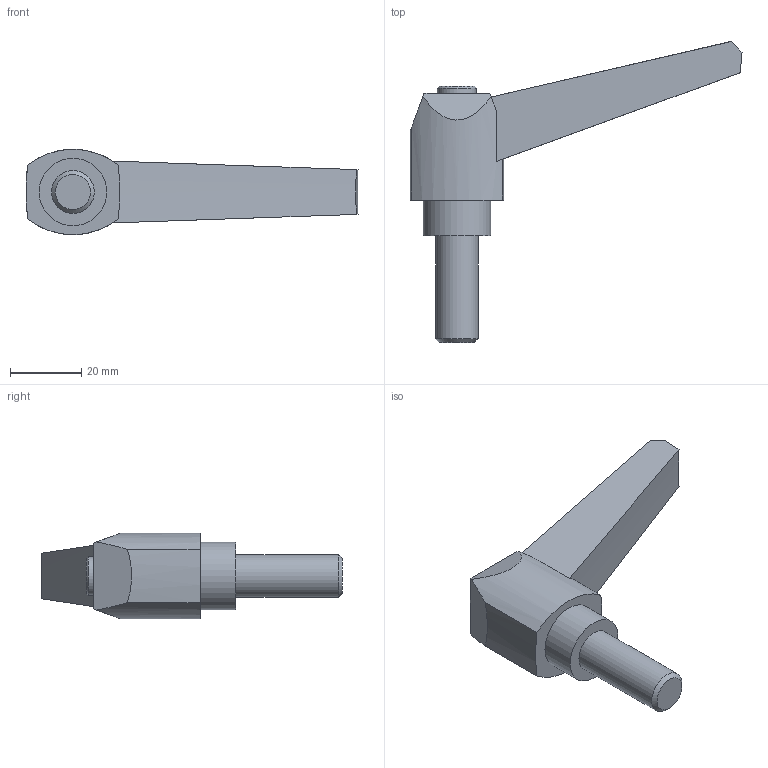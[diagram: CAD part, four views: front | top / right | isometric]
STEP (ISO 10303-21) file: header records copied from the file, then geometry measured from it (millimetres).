
FILE_DESCRIPTION( ( 'STEP AP203' ), '1' );
FILE_NAME( 'C:/Temp/Ganter_Step_05_03_2020/data/2_1/gn_500/gn_500_ms/Adjustable hand lever GN 500-80-M12-30-SW.stp', '2020-03-05T11:26:38', ( 'License CC BY-ND 4.0' ), ( 'CADENAS' ), ' ', 'PARTsolutions', ' ' );
FILE_SCHEMA( ( 'CONFIG_CONTROL_DESIGN' ) );
Length unit declared in the file: millimetre
Products named in the file (1): _Adjustable hand lever GN 500-80-M12-30-SW
Bounding box: 93.3 x 84.58 x 24 mm (x, y, z)
Volume: 36125.7 mm3; surface area: 9005.7 mm2
Topology: 1 solids, 1 shells, 24 faces, 56 edges, 37 vertices
Faces by surface type: plane 11, cylinder 7, cone 6
Full cylindrical faces by diameter (mm): 11 x1, 12 x1, 19 x1
Entity records: 709 total; most frequent: CARTESIAN_POINT 124, DIRECTION 118, ORIENTED_EDGE 100, EDGE_CURVE 50, AXIS2_PLACEMENT_3D 47, VERTEX_POINT 36, EDGE_LOOP 32, FACE_OUTER_BOUND 27
